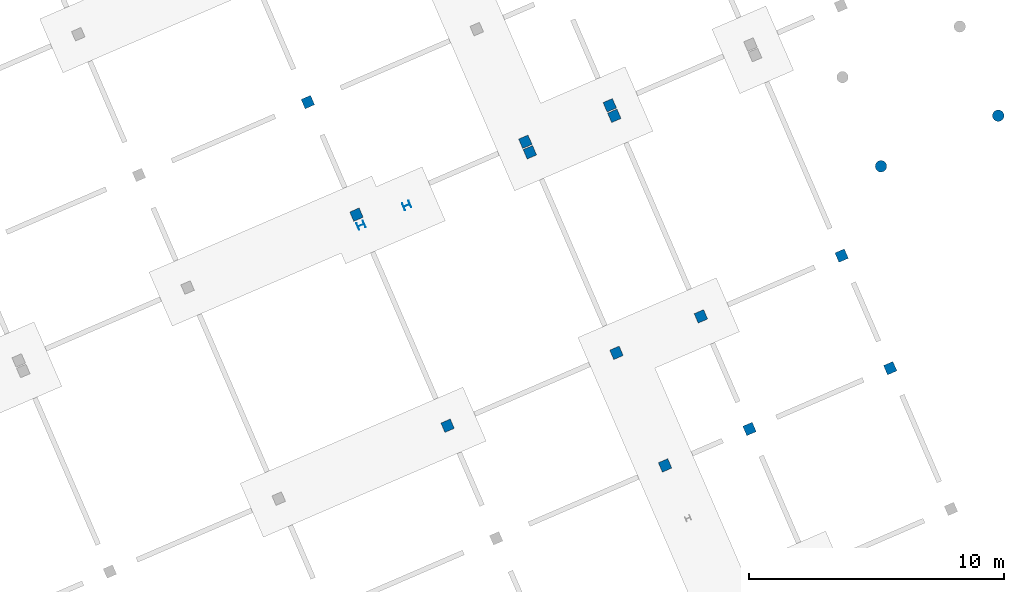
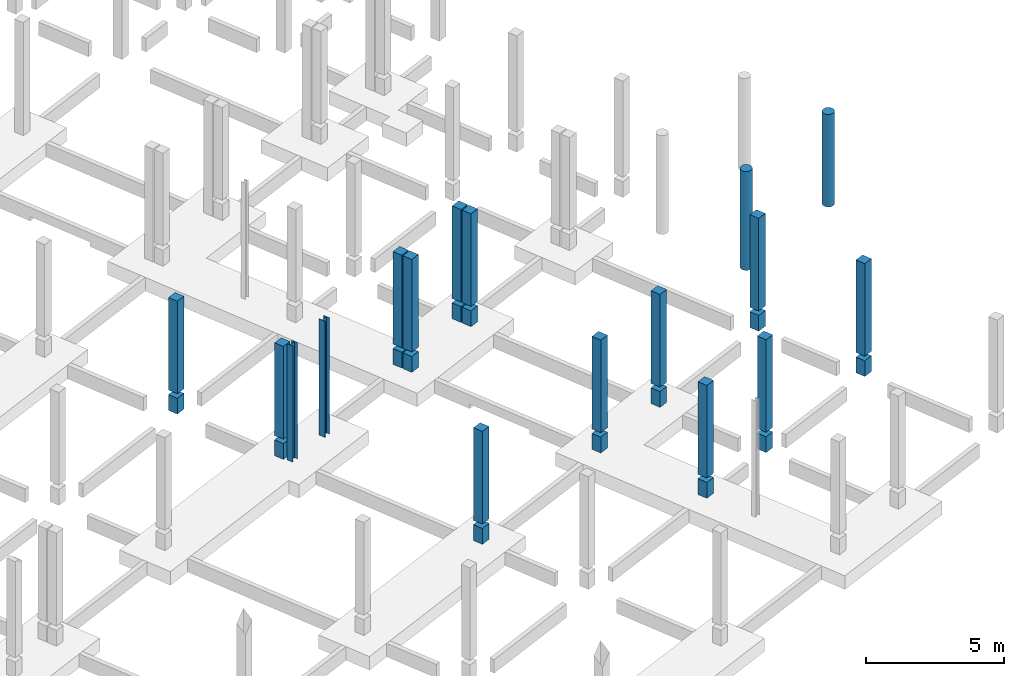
# One storey, part 4 of 11: 17 columns.
"""IFC4 building model written with IfcOpenShell, lengths in metres."""

from ifc_helpers import new_model, entity, si_unit, converted_unit, derived_unit, direction, frame, origin, place, context, subcontext, project, spatial, line, arc, indexed_curve, outline, extrude, source, transform, mapped, material, type_object, type_shapes, element, save


model = new_model("IFC4")

# Units and contexts
model_context = context("Model", 3, precision=1e-05, world=origin(), true_north=direction((6.12323399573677e-17, 1.0)))
body_context = subcontext(model_context, "Body", "Model", "MODEL_VIEW")
ifc_project = project(units=[si_unit("LENGTHUNIT", "METRE"), si_unit("AREAUNIT", "SQUARE_METRE"), si_unit("VOLUMEUNIT", "CUBIC_METRE"), converted_unit("PLANEANGLEUNIT", "DEGREE", entity("IfcPlaneAngleMeasure", 0.0174532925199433), si_unit("PLANEANGLEUNIT", "RADIAN"), dimensions=[0, 0, 0, 0, 0, 0, 0]), si_unit("MASSUNIT", "GRAM", prefix="KILO"), derived_unit("MOMENTOFINERTIAUNIT", [(si_unit("LENGTHUNIT", "METRE"), 4)]), derived_unit("LINEARFORCEUNIT", [(si_unit("MASSUNIT", "GRAM", prefix="KILO"), 1), (si_unit("TIMEUNIT", "SECOND"), -2)]), derived_unit("WARPINGCONSTANTUNIT", [(si_unit("LENGTHUNIT", "METRE"), 6)]), derived_unit("THERMALTRANSMITTANCEUNIT", [(si_unit("MASSUNIT", "GRAM", prefix="KILO"), 1), (si_unit("THERMODYNAMICTEMPERATUREUNIT", "KELVIN"), -1), (si_unit("TIMEUNIT", "SECOND"), -3)]), derived_unit("USERDEFINED", [(si_unit("MASSUNIT", "GRAM", prefix="KILO"), 1), (si_unit("TIMEUNIT", "SECOND"), -2), (si_unit("THERMODYNAMICTEMPERATUREUNIT", "KELVIN"), -1)]), derived_unit("THERMALRESISTANCEUNIT", [(si_unit("MASSUNIT", "GRAM", prefix="KILO"), -1), (si_unit("TIMEUNIT", "SECOND"), 3), (si_unit("THERMODYNAMICTEMPERATUREUNIT", "KELVIN"), 1)])], contexts=[model_context])

# Site, building, storey
site_placement = place(None, origin())
site = spatial("IfcSite", under=ifc_project, at=site_placement, Name="Default", CompositionType="ELEMENT")
building_placement = place(site_placement, frame((12.6613425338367, -82.5732315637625, 317.15), z_axis=(0.0, 0.0, 1.0), x_axis=(-0.396377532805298, 0.918087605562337, 0.0)))
building = spatial("IfcBuilding", under=site, at=building_placement, Name="CESFAM Coyhaique", CompositionType="ELEMENT")
storey_placement = place(building_placement, frame((0.0, 0.0, -0.950000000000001)))
storey = spatial("IfcBuildingStorey", under=building, at=storey_placement, Name="d_Fundaciones", CompositionType="ELEMENT", Elevation=-0.950000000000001)

# Columns
ifc_material_1 = material(Name="HA")
column_type_1 = type_object("IfcColumnType", Name="M_Concrete-Square-Column:400 x 400mm", PredefinedType="COLUMN", material=ifc_material_1)
shared_shape_1 = source(origin(), body_context, "Body", "SweptSolid", [
    extrude(outline(indexed_curve([(-0.2, -0.2), (0.2, -0.2), (0.2, 0.2), (-0.2, 0.2), (-0.2, -0.2)], self_intersect=False)), frame((10.1688534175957, -11.5971495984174, -0.950000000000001), z_axis=(0.0, 0.0, 1.0), x_axis=(-1.0, 0.0, 0.0)), (0.0, 0.0, 1.0), 0.7),
    extrude(outline(indexed_curve([(-0.2, -0.2), (0.2, -0.2), (0.2, 0.2), (-0.2, 0.2), (-0.2, -0.2)], self_intersect=False)), frame((10.1688534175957, -11.5971495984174, -0.0500000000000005), z_axis=(0.0, 0.0, 1.0), x_axis=(-1.0, 0.0, 0.0)), (0.0, 0.0, 1.0), 4.10000000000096),
])
type_shapes(column_type_1, [shared_shape_1])
column_1_placement = place(storey_placement, frame((0.0, 0.0, 0.950000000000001)))
element("IfcColumn", 1, at=column_1_placement, inside=storey, type_object=column_type_1, Name="M_Concrete-Square-Column:400 x 400mm", ObjectType="M_Concrete-Square-Column:400 x 400mm", PredefinedType="COLUMN", context=body_context, shape_type="MappedRepresentation", body=[
    mapped(shared_shape_1, transform((0.0, 0.0, 0.0), scale=1.0)),
])
column_type_2 = type_object("IfcColumnType", Name="M_Concrete-Square-Column:400 x 400mm", PredefinedType="COLUMN", material=ifc_material_1)
shared_shape_2 = source(origin(), body_context, "Body", "SweptSolid", [
    extrude(outline(indexed_curve([(-0.2, -0.199999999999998), (0.2, -0.199999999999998), (0.2, 0.200000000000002), (-0.2, 0.200000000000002), (-0.2, -0.199999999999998)], self_intersect=False)), frame((10.168853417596, -21.1971495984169, -0.950000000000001), z_axis=(0.0, 0.0, 1.0), x_axis=(-1.0, 0.0, 0.0)), (0.0, 0.0, 1.0), 0.7),
    extrude(outline(indexed_curve([(-0.2, -0.200000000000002), (0.2, -0.199999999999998), (0.2, 0.199999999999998), (-0.2, 0.199999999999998), (-0.2, -0.200000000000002)], self_intersect=False)), frame((10.168853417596, -21.1971495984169, -0.0500000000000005), z_axis=(0.0, 0.0, 1.0), x_axis=(-1.0, 0.0, 0.0)), (0.0, 0.0, 1.0), 4.10000000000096),
])
type_shapes(column_type_2, [shared_shape_2])
column_2_placement = place(storey_placement, frame((0.0, 0.0, 0.950000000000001)))
element("IfcColumn", 2, at=column_2_placement, inside=storey, type_object=column_type_2, Name="M_Concrete-Square-Column:400 x 400mm", ObjectType="M_Concrete-Square-Column:400 x 400mm", PredefinedType="COLUMN", context=body_context, shape_type="MappedRepresentation", body=[
    mapped(shared_shape_2, transform((0.0, 0.0, 0.0), scale=1.0)),
])
column_type_3 = type_object("IfcColumnType", Name="M_Concrete-Square-Column:400 x 400mm", PredefinedType="COLUMN", material=ifc_material_1)
shared_shape_3 = source(origin(), body_context, "Body", "SweptSolid", [
    extrude(outline(indexed_curve([(-0.2, -0.2), (0.2, -0.2), (0.2, 0.2), (-0.2, 0.2), (-0.2, -0.2)], self_intersect=False)), frame((14.9688534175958, -4.39714959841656, -0.950000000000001), z_axis=(0.0, 0.0, 1.0), x_axis=(-1.0, 0.0, 0.0)), (0.0, 0.0, 1.0), 0.7),
    extrude(outline(indexed_curve([(-0.2, -0.2), (0.2, -0.2), (0.2, 0.2), (-0.2, 0.2), (-0.2, -0.2)], self_intersect=False)), frame((14.9688534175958, -4.39714959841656, -0.0500000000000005), z_axis=(0.0, 0.0, 1.0), x_axis=(-1.0, 0.0, 0.0)), (0.0, 0.0, 1.0), 4.10000000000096),
])
type_shapes(column_type_3, [shared_shape_3])
column_3_placement = place(storey_placement, frame((0.0, 0.0, 0.950000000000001)))
element("IfcColumn", 3, at=column_3_placement, inside=storey, type_object=column_type_3, Name="M_Concrete-Square-Column:400 x 400mm", ObjectType="M_Concrete-Square-Column:400 x 400mm", PredefinedType="COLUMN", context=body_context, shape_type="MappedRepresentation", body=[
    mapped(shared_shape_3, transform((0.0, 0.0, 0.0), scale=1.0)),
])
column_type_4 = type_object("IfcColumnType", Name="M_Concrete-Square-Column:400 x 400mm", PredefinedType="COLUMN", material=ifc_material_1)
shared_shape_4 = source(origin(), body_context, "Body", "SweptSolid", [
    extrude(outline(indexed_curve([(-0.2, -0.2), (0.2, -0.2), (0.2, 0.2), (-0.2, 0.2), (-0.2, -0.2)], self_intersect=False)), frame((14.9688534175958, -11.5971495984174, -0.950000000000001), z_axis=(0.0, 0.0, 1.0), x_axis=(-1.0, 0.0, 0.0)), (0.0, 0.0, 1.0), 0.7),
    extrude(outline(indexed_curve([(-0.2, -0.2), (0.2, -0.2), (0.2, 0.2), (-0.2, 0.2), (-0.2, -0.2)], self_intersect=False)), frame((14.9688534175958, -11.5971495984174, -0.0500000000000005), z_axis=(0.0, 0.0, 1.0), x_axis=(-1.0, 0.0, 0.0)), (0.0, 0.0, 1.0), 4.10000000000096),
])
type_shapes(column_type_4, [shared_shape_4])
column_4_placement = place(storey_placement, frame((0.0, 0.0, 0.950000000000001)))
element("IfcColumn", 4, at=column_4_placement, inside=storey, type_object=column_type_4, Name="M_Concrete-Square-Column:400 x 400mm", ObjectType="M_Concrete-Square-Column:400 x 400mm", PredefinedType="COLUMN", context=body_context, shape_type="MappedRepresentation", body=[
    mapped(shared_shape_4, transform((0.0, 0.0, 0.0), scale=1.0)),
])
column_type_5 = type_object("IfcColumnType", Name="M_Concrete-Square-Column:400 x 400mm", PredefinedType="COLUMN", material=ifc_material_1)
shared_shape_5 = source(origin(), body_context, "Body", "SweptSolid", [
    extrude(outline(indexed_curve([(-0.2, -0.199999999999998), (0.2, -0.199999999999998), (0.2, 0.200000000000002), (-0.2, 0.200000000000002), (-0.2, -0.199999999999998)], self_intersect=False)), frame((14.9688534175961, -21.1971495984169, -0.950000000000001), z_axis=(0.0, 0.0, 1.0), x_axis=(-1.0, 0.0, 0.0)), (0.0, 0.0, 1.0), 0.7),
    extrude(outline(indexed_curve([(-0.2, -0.200000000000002), (0.2, -0.199999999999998), (0.2, 0.199999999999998), (-0.2, 0.199999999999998), (-0.2, -0.200000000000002)], self_intersect=False)), frame((14.9688534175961, -21.1971495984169, -0.0500000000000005), z_axis=(0.0, 0.0, 1.0), x_axis=(-1.0, 0.0, 0.0)), (0.0, 0.0, 1.0), 4.10000000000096),
])
type_shapes(column_type_5, [shared_shape_5])
column_5_placement = place(storey_placement, frame((0.0, 0.0, 0.950000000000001)))
element("IfcColumn", 5, at=column_5_placement, inside=storey, type_object=column_type_5, Name="M_Concrete-Square-Column:400 x 400mm", ObjectType="M_Concrete-Square-Column:400 x 400mm", PredefinedType="COLUMN", context=body_context, shape_type="MappedRepresentation", body=[
    mapped(shared_shape_5, transform((0.0, 0.0, 0.0), scale=1.0)),
])
column_type_6 = type_object("IfcColumnType", Name="M_Concrete-Square-Column:400 x 400mm", PredefinedType="COLUMN", material=ifc_material_1)
shared_shape_6 = source(origin(), body_context, "Body", "SweptSolid", [
    extrude(outline(indexed_curve([(-0.199999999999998, -0.2), (0.200000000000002, -0.2), (0.200000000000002, 0.2), (-0.199999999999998, 0.2), (-0.199999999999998, -0.2)], self_intersect=False)), frame((23.9688534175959, -4.39714959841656, -0.950000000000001), z_axis=(0.0, 0.0, 1.0), x_axis=(-1.0, 0.0, 0.0)), (0.0, 0.0, 1.0), 0.7),
    extrude(outline(indexed_curve([(-0.199999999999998, -0.2), (0.200000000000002, -0.2), (0.200000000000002, 0.2), (-0.199999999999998, 0.2), (-0.199999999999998, -0.2)], self_intersect=False)), frame((23.9688534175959, -4.39714959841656, -0.0500000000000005), z_axis=(0.0, 0.0, 1.0), x_axis=(-1.0, 0.0, 0.0)), (0.0, 0.0, 1.0), 4.10000000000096),
])
type_shapes(column_type_6, [shared_shape_6])
column_6_placement = place(storey_placement, frame((0.0, 0.0, 0.950000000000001)))
element("IfcColumn", 6, at=column_6_placement, inside=storey, type_object=column_type_6, Name="M_Concrete-Square-Column:400 x 400mm", ObjectType="M_Concrete-Square-Column:400 x 400mm", PredefinedType="COLUMN", context=body_context, shape_type="MappedRepresentation", body=[
    mapped(shared_shape_6, transform((0.0, 0.0, 0.0), scale=1.0)),
])
column_type_7 = type_object("IfcColumnType", Name="M_Concrete-Square-Column:400 x 400mm", PredefinedType="COLUMN", material=ifc_material_1)
shared_shape_7 = source(origin(), body_context, "Body", "SweptSolid", [
    extrude(outline(indexed_curve([(-0.199999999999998, -0.2), (0.200000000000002, -0.2), (0.200000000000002, 0.2), (-0.199999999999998, 0.2), (-0.199999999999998, -0.2)], self_intersect=False)), frame((23.9688534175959, -11.5971495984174, -0.950000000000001), z_axis=(0.0, 0.0, 1.0), x_axis=(-1.0, 0.0, 0.0)), (0.0, 0.0, 1.0), 0.7),
    extrude(outline(indexed_curve([(-0.199999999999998, -0.2), (0.200000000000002, -0.2), (0.200000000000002, 0.2), (-0.199999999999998, 0.2), (-0.199999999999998, -0.2)], self_intersect=False)), frame((23.9688534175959, -11.5971495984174, -0.0500000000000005), z_axis=(0.0, 0.0, 1.0), x_axis=(-1.0, 0.0, 0.0)), (0.0, 0.0, 1.0), 4.10000000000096),
])
type_shapes(column_type_7, [shared_shape_7])
column_7_placement = place(storey_placement, frame((0.0, 0.0, 0.950000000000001)))
element("IfcColumn", 7, at=column_7_placement, inside=storey, type_object=column_type_7, Name="M_Concrete-Square-Column:400 x 400mm", ObjectType="M_Concrete-Square-Column:400 x 400mm", PredefinedType="COLUMN", context=body_context, shape_type="MappedRepresentation", body=[
    mapped(shared_shape_7, transform((0.0, 0.0, 0.0), scale=1.0)),
])
column_type_8 = type_object("IfcColumnType", Name="M_Concrete-Square-Column:400 x 400mm", PredefinedType="COLUMN", material=ifc_material_1)
shared_shape_8 = source(origin(), body_context, "Body", "SweptSolid", [
    extrude(outline(indexed_curve([(-0.200000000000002, -0.2), (0.199999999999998, -0.2), (0.199999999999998, 0.2), (-0.200000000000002, 0.2), (-0.200000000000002, -0.2)], self_intersect=False)), frame((28.7688534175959, -4.39714959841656, -0.950000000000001), z_axis=(0.0, 0.0, 1.0), x_axis=(-1.0, 0.0, 0.0)), (0.0, 0.0, 1.0), 0.7),
    extrude(outline(indexed_curve([(-0.200000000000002, -0.2), (0.199999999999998, -0.2), (0.199999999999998, 0.2), (-0.200000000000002, 0.2), (-0.200000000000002, -0.2)], self_intersect=False)), frame((28.7688534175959, -4.39714959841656, -0.0500000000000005), z_axis=(0.0, 0.0, 1.0), x_axis=(-1.0, 0.0, 0.0)), (0.0, 0.0, 1.0), 4.10000000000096),
])
type_shapes(column_type_8, [shared_shape_8])
column_8_placement = place(storey_placement, frame((0.0, 0.0, 0.950000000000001)))
element("IfcColumn", 8, at=column_8_placement, inside=storey, type_object=column_type_8, Name="M_Concrete-Square-Column:400 x 400mm", ObjectType="M_Concrete-Square-Column:400 x 400mm", PredefinedType="COLUMN", context=body_context, shape_type="MappedRepresentation", body=[
    mapped(shared_shape_8, transform((0.0, 0.0, 0.0), scale=1.0)),
])
column_type_9 = type_object("IfcColumnType", Name="M_Concrete-Square-Column:400 x 400mm", PredefinedType="COLUMN", material=ifc_material_1)
shared_shape_9 = source(origin(), body_context, "Body", "SweptSolid", [
    extrude(outline(indexed_curve([(-0.2, -0.2), (0.2, -0.2), (0.2, 0.2), (-0.2, 0.2), (-0.2, -0.2)], self_intersect=False)), frame((10.1688534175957, -15.1971495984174, -0.950000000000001), z_axis=(0.0, 0.0, 1.0), x_axis=(-1.0, 0.0, 0.0)), (0.0, 0.0, 1.0), 0.7),
    extrude(outline(indexed_curve([(-0.2, -0.2), (0.2, -0.2), (0.2, 0.2), (-0.2, 0.2), (-0.2, -0.2)], self_intersect=False)), frame((10.1688534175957, -15.1971495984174, -0.0500000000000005), z_axis=(0.0, 0.0, 1.0), x_axis=(-1.0, 0.0, 0.0)), (0.0, 0.0, 1.0), 4.10000000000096),
])
type_shapes(column_type_9, [shared_shape_9])
column_9_placement = place(storey_placement, frame((0.0, 0.0, 0.950000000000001)))
element("IfcColumn", 9, at=column_9_placement, inside=storey, type_object=column_type_9, Name="M_Concrete-Square-Column:400 x 400mm", ObjectType="M_Concrete-Square-Column:400 x 400mm", PredefinedType="COLUMN", context=body_context, shape_type="MappedRepresentation", body=[
    mapped(shared_shape_9, transform((0.0, 0.0, 0.0), scale=1.0)),
])
column_type_10 = type_object("IfcColumnType", Name="M_Concrete-Square-Column:400 x 400mm", PredefinedType="COLUMN", material=ifc_material_1)
shared_shape_10 = source(origin(), body_context, "Body", "SweptSolid", [
    extrude(outline(indexed_curve([(-0.2, -0.2), (0.2, -0.2), (0.2, 0.2), (-0.2, 0.2), (-0.2, -0.2)], self_intersect=False)), frame((14.9688534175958, -15.1971495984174, -0.950000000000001), z_axis=(0.0, 0.0, 1.0), x_axis=(-1.0, 0.0, 0.0)), (0.0, 0.0, 1.0), 0.7),
    extrude(outline(indexed_curve([(-0.2, -0.2), (0.2, -0.2), (0.2, 0.2), (-0.2, 0.2), (-0.2, -0.2)], self_intersect=False)), frame((14.9688534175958, -15.1971495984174, -0.0500000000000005), z_axis=(0.0, 0.0, 1.0), x_axis=(-1.0, 0.0, 0.0)), (0.0, 0.0, 1.0), 4.10000000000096),
])
type_shapes(column_type_10, [shared_shape_10])
column_10_placement = place(storey_placement, frame((0.0, 0.0, 0.950000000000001)))
element("IfcColumn", 10, at=column_10_placement, inside=storey, type_object=column_type_10, Name="M_Concrete-Square-Column:400 x 400mm", ObjectType="M_Concrete-Square-Column:400 x 400mm", PredefinedType="COLUMN", context=body_context, shape_type="MappedRepresentation", body=[
    mapped(shared_shape_10, transform((0.0, 0.0, 0.0), scale=1.0)),
])
column_type_11 = type_object("IfcColumnType", Name="M_Concrete-Square-Column:400 x 400mm", PredefinedType="COLUMN", material=ifc_material_1)
shared_shape_11 = source(origin(), body_context, "Body", "SweptSolid", [
    extrude(outline(indexed_curve([(-0.199999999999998, -0.2), (0.200000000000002, -0.2), (0.200000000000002, 0.2), (-0.199999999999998, 0.2), (-0.199999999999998, -0.2)], self_intersect=False)), frame((23.9688534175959, -15.1971495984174, -0.950000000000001), z_axis=(0.0, 0.0, 1.0), x_axis=(-1.0, 0.0, 0.0)), (0.0, 0.0, 1.0), 0.7),
    extrude(outline(indexed_curve([(-0.199999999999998, -0.2), (0.200000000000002, -0.2), (0.200000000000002, 0.2), (-0.199999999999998, 0.2), (-0.199999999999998, -0.2)], self_intersect=False)), frame((23.9688534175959, -15.1971495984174, -0.0500000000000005), z_axis=(0.0, 0.0, 1.0), x_axis=(-1.0, 0.0, 0.0)), (0.0, 0.0, 1.0), 4.10000000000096),
])
type_shapes(column_type_11, [shared_shape_11])
column_11_placement = place(storey_placement, frame((0.0, 0.0, 0.950000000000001)))
element("IfcColumn", 11, at=column_11_placement, inside=storey, type_object=column_type_11, Name="M_Concrete-Square-Column:400 x 400mm", ObjectType="M_Concrete-Square-Column:400 x 400mm", PredefinedType="COLUMN", context=body_context, shape_type="MappedRepresentation", body=[
    mapped(shared_shape_11, transform((0.0, 0.0, 0.0), scale=1.0)),
])
column_type_12 = type_object("IfcColumnType", Name="M_Concrete-Square-Column:400 x 400mm", PredefinedType="COLUMN", material=ifc_material_1)
shared_shape_12 = source(origin(), body_context, "Body", "SweptSolid", [
    extrude(outline(indexed_curve([(-0.200000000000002, -0.2), (0.199999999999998, -0.2), (0.199999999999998, 0.2), (-0.200000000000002, 0.2), (-0.200000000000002, -0.2)], self_intersect=False)), frame((23.5188534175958, -11.5971495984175, -0.950000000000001), z_axis=(0.0, 0.0, 1.0), x_axis=(-1.0, 0.0, 0.0)), (0.0, 0.0, 1.0), 0.7),
    extrude(outline(indexed_curve([(-0.200000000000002, -0.2), (0.199999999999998, -0.2), (0.199999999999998, 0.2), (-0.200000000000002, 0.2), (-0.200000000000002, -0.2)], self_intersect=False)), frame((23.5188534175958, -11.5971495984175, -0.0500000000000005), z_axis=(0.0, 0.0, 1.0), x_axis=(-1.0, 0.0, 0.0)), (0.0, 0.0, 1.0), 4.10000000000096),
])
type_shapes(column_type_12, [shared_shape_12])
column_12_placement = place(storey_placement, frame((0.0, 0.0, 0.950000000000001)))
element("IfcColumn", 12, at=column_12_placement, inside=storey, type_object=column_type_12, Name="M_Concrete-Square-Column:400 x 400mm", ObjectType="M_Concrete-Square-Column:400 x 400mm", PredefinedType="COLUMN", context=body_context, shape_type="MappedRepresentation", body=[
    mapped(shared_shape_12, transform((0.0, 0.0, 0.0), scale=1.0)),
])
column_type_13 = type_object("IfcColumnType", Name="M_Concrete-Square-Column:400 x 400mm", PredefinedType="COLUMN", material=ifc_material_1)
shared_shape_13 = source(origin(), body_context, "Body", "SweptSolid", [
    extrude(outline(indexed_curve([(-0.200000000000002, -0.2), (0.199999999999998, -0.2), (0.199999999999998, 0.2), (-0.200000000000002, 0.2), (-0.200000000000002, -0.2)], self_intersect=False)), frame((23.5188534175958, -15.1971495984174, -0.950000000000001), z_axis=(0.0, 0.0, 1.0), x_axis=(-1.0, 0.0, 0.0)), (0.0, 0.0, 1.0), 0.7),
    extrude(outline(indexed_curve([(-0.200000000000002, -0.2), (0.199999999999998, -0.2), (0.199999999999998, 0.2), (-0.200000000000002, 0.2), (-0.200000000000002, -0.2)], self_intersect=False)), frame((23.5188534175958, -15.1971495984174, -0.0500000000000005), z_axis=(0.0, 0.0, 1.0), x_axis=(-1.0, 0.0, 0.0)), (0.0, 0.0, 1.0), 4.10000000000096),
])
type_shapes(column_type_13, [shared_shape_13])
column_13_placement = place(storey_placement, frame((0.0, 0.0, 0.950000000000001)))
element("IfcColumn", 13, at=column_13_placement, inside=storey, type_object=column_type_13, Name="M_Concrete-Square-Column:400 x 400mm", ObjectType="M_Concrete-Square-Column:400 x 400mm", PredefinedType="COLUMN", context=body_context, shape_type="MappedRepresentation", body=[
    mapped(shared_shape_13, transform((0.0, 0.0, 0.0), scale=1.0)),
])
column_type_14 = type_object("IfcColumnType", Name="M_Concrete-Round-Column:450mm", PredefinedType="COLUMN", material=ifc_material_1)
shared_shape_14 = source(origin(), body_context, "Body", "SweptSolid", [
    extrude(outline(indexed_curve([(-0.224999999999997, 0.0), (0.0, -0.224999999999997), (0.224999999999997, 0.0), (0.0, 0.224999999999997)], segments=[arc(1, 2, 3), arc(3, 4, 1)], self_intersect=False)), frame((17.5688534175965, -28.9973206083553, -0.950000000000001)), (0.0, 0.0, 1.0), 4.10000000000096),
])
type_shapes(column_type_14, [shared_shape_14])
column_14_placement = place(storey_placement, frame((0.0, 0.0, 0.950000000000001)))
element("IfcColumn", 14, at=column_14_placement, inside=storey, type_object=column_type_14, Name="M_Concrete-Round-Column:450mm", ObjectType="M_Concrete-Round-Column:450mm", PredefinedType="COLUMN", context=body_context, shape_type="MappedRepresentation", body=[
    mapped(shared_shape_14, transform((0.0, 0.0, 0.0), scale=1.0)),
])
column_type_15 = type_object("IfcColumnType", Name="M_Concrete-Round-Column:450mm", PredefinedType="COLUMN", material=ifc_material_1)
shared_shape_15 = source(origin(), body_context, "Body", "SweptSolid", [
    extrude(outline(indexed_curve([(-0.224999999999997, 0.0), (0.0, -0.224999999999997), (0.224999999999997, 0.0), (0.0, 0.224999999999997)], segments=[arc(1, 2, 3), arc(3, 4, 1)], self_intersect=False)), frame((17.5688534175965, -23.9973206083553, -0.950000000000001)), (0.0, 0.0, 1.0), 4.38000000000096),
])
type_shapes(column_type_15, [shared_shape_15])
column_15_placement = place(storey_placement, frame((0.0, 0.0, 0.950000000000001)))
element("IfcColumn", 15, at=column_15_placement, inside=storey, type_object=column_type_15, Name="M_Concrete-Round-Column:450mm", ObjectType="M_Concrete-Round-Column:450mm", PredefinedType="COLUMN", context=body_context, shape_type="MappedRepresentation", body=[
    mapped(shared_shape_15, transform((0.0, 0.0, 0.0), scale=1.0)),
])
ifc_material_2 = material(Name="Steel, 45-345", Category="Metal")
column_type_16 = type_object("IfcColumnType", Name="M_W Shapes-Column:HEA 280", PredefinedType="COLUMN", material=ifc_material_2)
shared_shape_16 = source(origin(), body_context, "Body", "SweptSolid", [
    extrude(outline(indexed_curve([(-0.139999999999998, -0.14), (0.140000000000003, -0.14), (0.140000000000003, -0.129), (0.0163850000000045, -0.129), (0.00740474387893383, -0.125280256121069), (0.00368500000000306, -0.1163), (0.00368500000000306, 0.1163), (0.00740474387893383, 0.125280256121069), (0.0163850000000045, 0.129), (0.140000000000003, 0.129), (0.140000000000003, 0.14), (-0.139999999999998, 0.14), (-0.139999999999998, 0.129), (-0.0163849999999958, 0.129), (-0.00740474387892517, 0.125280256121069), (-0.00368499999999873, 0.1163), (-0.0036849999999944, -0.1163), (-0.00740474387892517, -0.125280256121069), (-0.0163849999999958, -0.129), (-0.139999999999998, -0.129)], segments=[line(1, 2, 3, 4), arc(4, 5, 6), line(6, 7), arc(7, 8, 9), line(9, 10, 11, 12, 13, 14), arc(14, 15, 16), line(16, 17), arc(17, 18, 19), line(19, 20, 1)], self_intersect=False)), frame((23.5188534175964, -4.39714959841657, -0.950000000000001), z_axis=(0.0, 0.0, 1.0), x_axis=(-1.0, 0.0, 0.0)), (0.0, 0.0, 1.0), 5.15000000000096),
])
type_shapes(column_type_16, [shared_shape_16])
column_16_placement = place(storey_placement, frame((0.0, 0.0, 0.950000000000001)))
element("IfcColumn", 16, at=column_16_placement, inside=storey, type_object=column_type_16, Name="M_W Shapes-Column:HEA 280", ObjectType="M_W Shapes-Column:HEA 280", PredefinedType="COLUMN", context=body_context, shape_type="MappedRepresentation", body=[
    mapped(shared_shape_16, transform((0.0, 0.0, 0.0), scale=1.0)),
])
column_type_17 = type_object("IfcColumnType", Name="M_W Shapes-Column:HEA 280", PredefinedType="COLUMN", material=ifc_material_2)
shared_shape_17 = source(origin(), body_context, "Body", "SweptSolid", [
    extrude(outline(indexed_curve([(-0.139999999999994, -0.139999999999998), (0.140000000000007, -0.139999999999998), (0.140000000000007, -0.128999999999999), (0.0163850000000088, -0.128999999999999), (0.00740474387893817, -0.125280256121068), (0.00368500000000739, -0.116299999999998), (0.00368500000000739, 0.116300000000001), (0.00740474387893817, 0.125280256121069), (0.0163850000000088, 0.129000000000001), (0.140000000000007, 0.129000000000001), (0.140000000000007, 0.140000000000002), (-0.139999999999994, 0.140000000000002), (-0.139999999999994, 0.129000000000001), (-0.0163849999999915, 0.129000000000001), (-0.00740474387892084, 0.12528025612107), (-0.0036849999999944, 0.116300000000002), (-0.00368499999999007, -0.116299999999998), (-0.00740474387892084, -0.125280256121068), (-0.0163849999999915, -0.128999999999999), (-0.139999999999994, -0.128999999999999)], segments=[line(1, 2, 3, 4), arc(4, 5, 6), line(6, 7), arc(7, 8, 9), line(9, 10, 11, 12, 13, 14), arc(14, 15, 16), line(16, 17), arc(17, 18, 19), line(19, 20, 1)], self_intersect=False)), frame((23.5188534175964, -6.3471487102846, -0.950000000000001), z_axis=(0.0, 0.0, 1.0), x_axis=(-1.0, 0.0, 0.0)), (0.0, 0.0, 1.0), 5.15000000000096),
])
type_shapes(column_type_17, [shared_shape_17])
column_17_placement = place(storey_placement, frame((0.0, 0.0, 0.950000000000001)))
element("IfcColumn", 17, at=column_17_placement, inside=storey, type_object=column_type_17, Name="M_W Shapes-Column:HEA 280", ObjectType="M_W Shapes-Column:HEA 280", PredefinedType="COLUMN", context=body_context, shape_type="MappedRepresentation", body=[
    mapped(shared_shape_17, transform((0.0, 0.0, 0.0), scale=1.0)),
])

save(model, "model.ifc")
